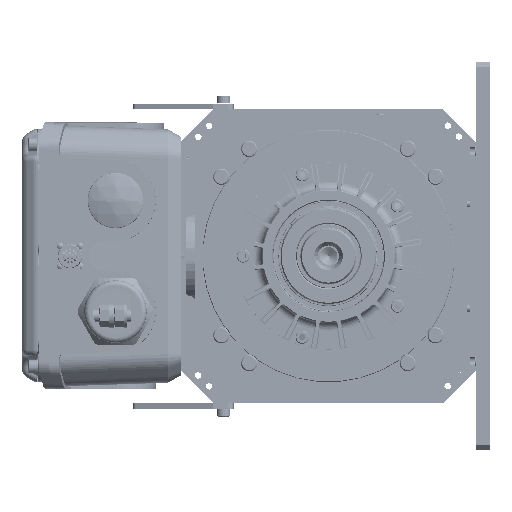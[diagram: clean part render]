
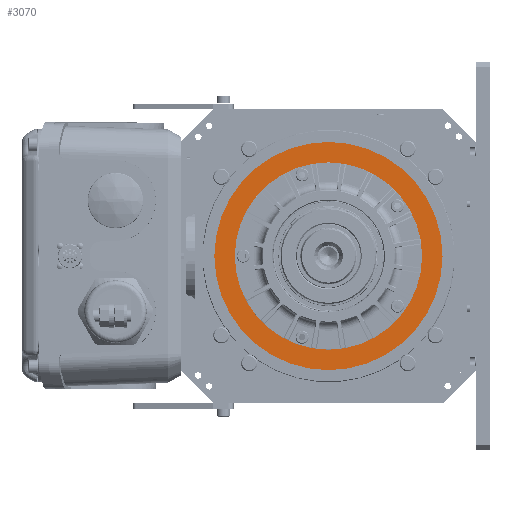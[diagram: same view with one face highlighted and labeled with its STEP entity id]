
A CAD part, left-side view. The second image highlights one B-rep face of the part: STEP entity #3070.
In plain terms, the highlighted planar face has unit normal (-1, 0, 0).
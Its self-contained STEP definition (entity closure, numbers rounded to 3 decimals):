
#1541=CARTESIAN_POINT('',(112.02,0.,0.));
#1542=DIRECTION('',(-1.,0.,0.));
#1543=DIRECTION('',(0.,-1.,0.));
#1544=AXIS2_PLACEMENT_3D('',#1541,#1542,#1543);
#1550=CARTESIAN_POINT('',(112.02,0.,0.));
#1551=DIRECTION('',(1.,0.,0.));
#1552=DIRECTION('',(0.,-1.,0.));
#1553=AXIS2_PLACEMENT_3D('',#1550,#1551,#1552);
#1559=CARTESIAN_POINT('',(112.02,0.,0.));
#1560=DIRECTION('',(-1.,0.,0.));
#1561=DIRECTION('',(0.,-1.,0.));
#1562=AXIS2_PLACEMENT_3D('',#1559,#1560,#1561);
#1564=CARTESIAN_POINT('',(112.02,0.,0.));
#1565=DIRECTION('',(1.,0.,0.));
#1566=DIRECTION('',(0.,-1.,0.));
#1567=AXIS2_PLACEMENT_3D('',#1564,#1565,#1566);
#2666=CARTESIAN_POINT('',(112.02,-92.75,0.));
#2668=VERTEX_POINT('',#2666);
#2670=CARTESIAN_POINT('',(112.02,92.75,0.));
#2672=VERTEX_POINT('',#2670);
#2673=CARTESIAN_POINT('',(112.02,-113.,0.));
#2674=CARTESIAN_POINT('',(112.02,113.,0.));
#2675=VERTEX_POINT('',#2673);
#2676=VERTEX_POINT('',#2674);
#3055=CARTESIAN_POINT('',(112.02,0.,0.));
#3056=DIRECTION('',(-1.,0.,0.));
#3057=DIRECTION('',(0.,-1.,0.));
#3058=AXIS2_PLACEMENT_3D('',#3055,#3056,#3057);
#3059=PLANE('',#3058);
#3060=ORIENTED_EDGE('',*,*,#3049,.T.);
#3061=ORIENTED_EDGE('',*,*,#3035,.F.);
#3062=EDGE_LOOP('',(#3060,#3061));
#3063=FACE_OUTER_BOUND('',#3062,.F.);
#3065=ORIENTED_EDGE('',*,*,#3064,.T.);
#3067=ORIENTED_EDGE('',*,*,#3066,.F.);
#3068=EDGE_LOOP('',(#3065,#3067));
#3069=FACE_BOUND('',#3068,.F.);
#3070=ADVANCED_FACE('',(#3063,#3069),#3059,.T.);
#1545=CIRCLE('',#1544,113.);
#1554=CIRCLE('',#1553,113.);
#1563=CIRCLE('',#1562,92.75);
#1568=CIRCLE('',#1567,92.75);
#3035=EDGE_CURVE('',#2675,#2676,#1545,.T.);
#3049=EDGE_CURVE('',#2675,#2676,#1554,.T.);
#3064=EDGE_CURVE('',#2668,#2672,#1563,.T.);
#3066=EDGE_CURVE('',#2668,#2672,#1568,.T.);
